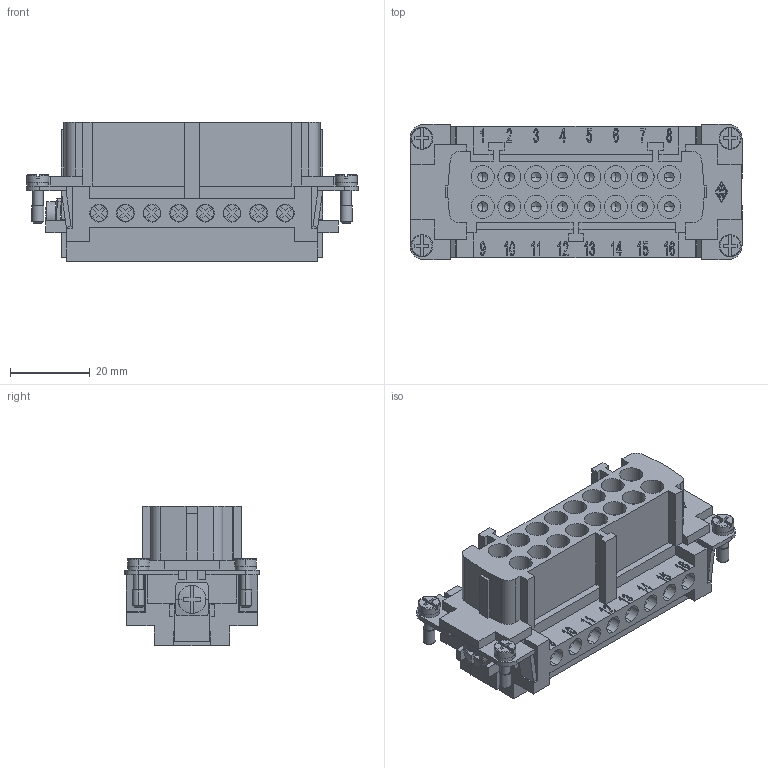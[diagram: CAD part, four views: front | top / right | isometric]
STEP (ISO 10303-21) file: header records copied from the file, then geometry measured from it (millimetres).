
FILE_DESCRIPTION (( 'STEP AP214' ), '1' );
FILE_NAME ('CNEF16.STEP', '2015-05-20T11:22:06', ( 'richard gronsfeld' ), ( '' ), 'SwSTEP 2.0', 'SolidWorks 2007', '' );
FILE_SCHEMA (( 'AUTOMOTIVE_DESIGN' ));
Length unit declared in the file: millimetre
Products named in the file (1): CNEF16
Bounding box: 83.5 x 34 x 35 mm (x, y, z)
Volume: 41902.6 mm3; surface area: 28722 mm2
Topology: 3 solids, 3 shells, 1772 faces, 4769 edges, 3135 vertices
Faces by surface type: plane 1107, bspline 319, cylinder 298, cone 40, torus 6, sphere 2
Entity records: 76249 total; most frequent: CARTESIAN_POINT 14179, ORIENTED_EDGE 9470, DIRECTION 7685, EDGE_CURVE 4735, VECTOR 3187, LINE 3187, VERTEX_POINT 3135, AXIS2_PLACEMENT_3D 2249
